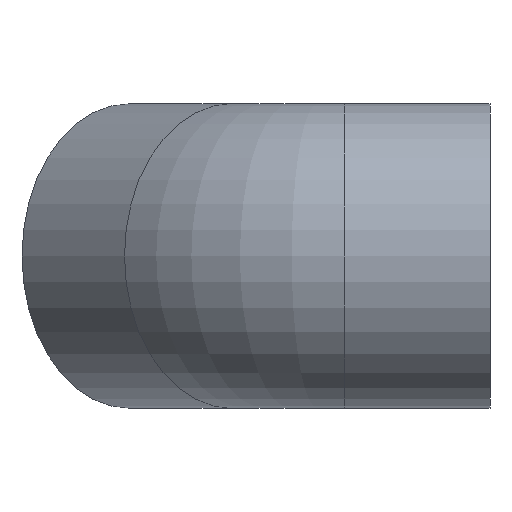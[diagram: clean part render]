
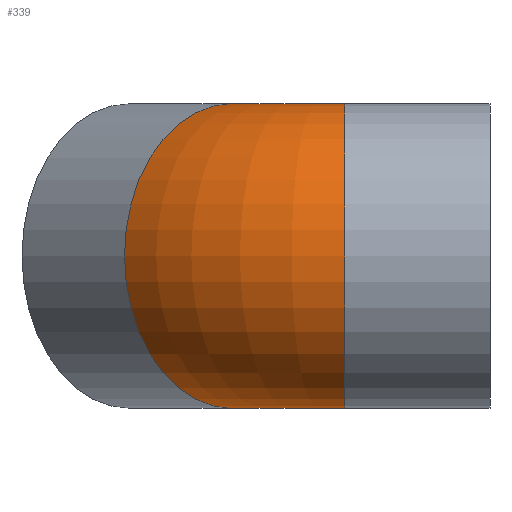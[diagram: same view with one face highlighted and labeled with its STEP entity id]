
A CAD part, left-side view. The second image highlights one B-rep face of the part: STEP entity #339.
In plain terms, the highlighted toroidal (fillet/blend) face has major radius 32.5 mm and minor radius 31 mm.
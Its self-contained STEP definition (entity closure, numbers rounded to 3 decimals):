
#16=TOROIDAL_SURFACE('',#369,32.5,31.);
#23=FACE_BOUND('',#102,.T.);
#71=FACE_OUTER_BOUND('',#101,.T.);
#101=EDGE_LOOP('',(#293));
#102=EDGE_LOOP('',(#294));
#122=CIRCLE('',#368,31.);
#123=CIRCLE('',#370,31.);
#174=VERTEX_POINT('',#8028);
#175=VERTEX_POINT('',#8031);
#218=EDGE_CURVE('',#174,#174,#122,.T.);
#219=EDGE_CURVE('',#175,#175,#123,.T.);
#293=ORIENTED_EDGE('',*,*,#218,.F.);
#294=ORIENTED_EDGE('',*,*,#219,.T.);
#339=ADVANCED_FACE('',(#71,#23),#16,.T.);
#368=AXIS2_PLACEMENT_3D('',#8029,#429,#430);
#369=AXIS2_PLACEMENT_3D('',#8030,#431,#432);
#370=AXIS2_PLACEMENT_3D('',#8032,#433,#434);
#429=DIRECTION('center_axis',(0.707,0.707,0.));
#430=DIRECTION('ref_axis',(0.707,-0.707,0.));
#431=DIRECTION('center_axis',(0.,0.,-1.));
#432=DIRECTION('ref_axis',(-1.,0.,0.));
#433=DIRECTION('center_axis',(0.,1.,0.));
#434=DIRECTION('ref_axis',(1.,0.,0.));
#8028=CARTESIAN_POINT('',(-12.401,74.439,0.));
#8029=CARTESIAN_POINT('Origin',(9.519,52.519,0.));
#8030=CARTESIAN_POINT('Origin',(32.5,29.538,0.));
#8031=CARTESIAN_POINT('',(-31.,29.538,0.));
#8032=CARTESIAN_POINT('Origin',(0.,29.538,0.));
